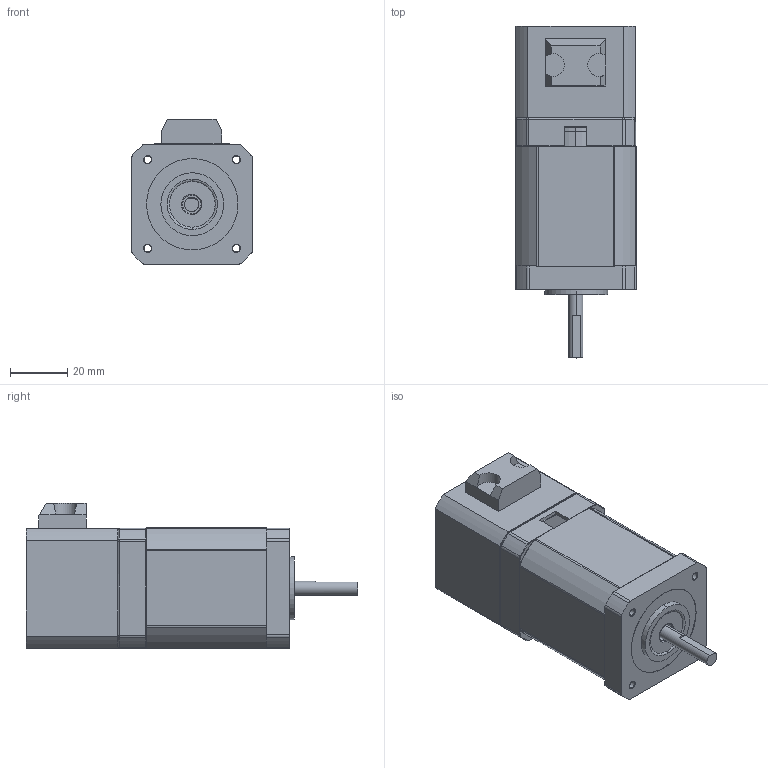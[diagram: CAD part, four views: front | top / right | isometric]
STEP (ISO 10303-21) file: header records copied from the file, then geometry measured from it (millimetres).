
FILE_DESCRIPTION (( 'STEP AP203' ), '1' );
FILE_NAME ('42CM08-BZ.STEP', '2021-04-23T06:37:05', ( 'Owner' ), ( 'Organization' ), 'SwSTEP 2.0', 'SolidWorks 2018', '' );
FILE_SCHEMA (( 'CONFIG_CONTROL_DESIGN' ));
Length unit declared in the file: millimetre
Products named in the file (6): 价陬; 16-406; 粣1; 42CM08-BZ; 隅赽42-42; 16-401
Assembly tree (5 placements, depth 2):
  42CM08-BZ
    隅赽42-42
    16-401
    粣1
    16-406
    价陬
Bounding box: 42.38 x 116.1 x 50.8 mm (x, y, z)
Volume: 94834.3 mm3; surface area: 57788.6 mm2
Topology: 5 solids, 5 shells, 717 faces, 1969 edges, 1281 vertices
Faces by surface type: cylinder 422, plane 219, bspline 42, cone 34
Entity records: 25002 total; most frequent: CARTESIAN_POINT 5531, DIRECTION 4165, ORIENTED_EDGE 3932, EDGE_CURVE 1966, AXIS2_PLACEMENT_3D 1584, VERTEX_POINT 1281, LINE 997, VECTOR 997
